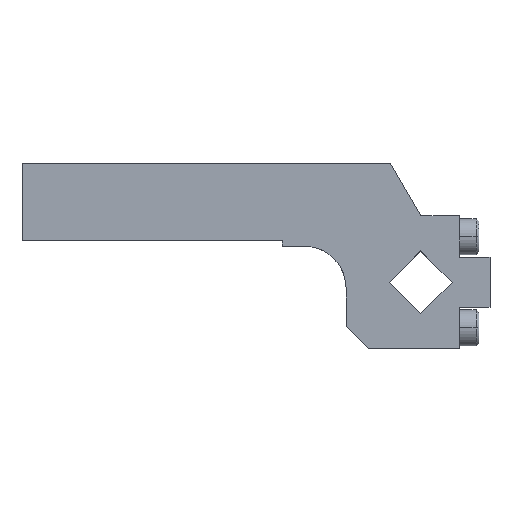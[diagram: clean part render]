
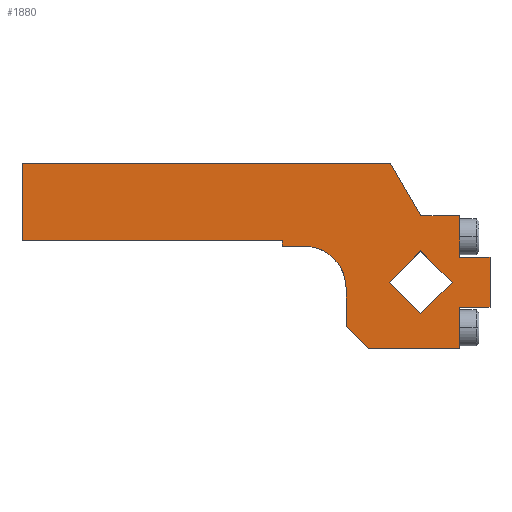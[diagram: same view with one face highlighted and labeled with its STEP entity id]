
A CAD part, top view. The second image highlights one B-rep face of the part: STEP entity #1880.
In plain terms, the highlighted planar face has unit normal (0, 0, 1).
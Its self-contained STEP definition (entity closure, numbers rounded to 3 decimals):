
#51=CARTESIAN_POINT('',(-31.393,8.607,20.0));
#52=VERTEX_POINT('',#51);
#68=CARTESIAN_POINT('',(-27.0,-2.,20.0));
#69=VERTEX_POINT('',#68);
#76=CARTESIAN_POINT('',(-42.0,-2.,20.0));
#77=DIRECTION('',(0.,0.,1.0));
#78=DIRECTION('',(0.707,0.707,0.));
#79=AXIS2_PLACEMENT_3D('',#76,#77,#78);
#80=CIRCLE('',#79,15.0);
#81=EDGE_CURVE('',#69,#52,#80,.T.);
#1155=CARTESIAN_POINT('',(-11.314,0.,20.0));
#1156=VERTEX_POINT('',#1155);
#1157=CARTESIAN_POINT('',(0.0,11.314,20.0));
#1158=VERTEX_POINT('',#1157);
#1159=CARTESIAN_POINT('',(-11.314,0.,20.0));
#1160=DIRECTION('',(0.707,0.707,0.0));
#1161=VECTOR('',#1160,16.);
#1162=LINE('',#1159,#1161);
#1163=EDGE_CURVE('',#1156,#1158,#1162,.T.);
#1195=CARTESIAN_POINT('',(11.314,0.,20.0));
#1196=VERTEX_POINT('',#1195);
#1197=CARTESIAN_POINT('',(0.0,11.314,20.0));
#1198=DIRECTION('',(0.707,-0.707,0.0));
#1199=VECTOR('',#1198,16.);
#1200=LINE('',#1197,#1199);
#1201=EDGE_CURVE('',#1158,#1196,#1200,.T.);
#1226=CARTESIAN_POINT('',(0.0,-11.314,20.0));
#1227=VERTEX_POINT('',#1226);
#1228=CARTESIAN_POINT('',(11.314,0.,20.0));
#1229=DIRECTION('',(-0.707,-0.707,0.0));
#1230=VECTOR('',#1229,16.);
#1231=LINE('',#1228,#1230);
#1232=EDGE_CURVE('',#1196,#1227,#1231,.T.);
#1257=CARTESIAN_POINT('',(0.0,-11.314,20.0));
#1258=DIRECTION('',(-0.707,0.707,0.0));
#1259=VECTOR('',#1258,16.);
#1260=LINE('',#1257,#1259);
#1261=EDGE_CURVE('',#1227,#1156,#1260,.T.);
#1280=CARTESIAN_POINT('',(-42.,13.,20.0));
#1281=VERTEX_POINT('',#1280);
#1282=CARTESIAN_POINT('',(-42.0,-2.,20.0));
#1283=DIRECTION('',(0.,0.,1.0));
#1284=DIRECTION('',(0.707,0.707,0.));
#1285=AXIS2_PLACEMENT_3D('',#1282,#1283,#1284);
#1286=CIRCLE('',#1285,15.0);
#1287=EDGE_CURVE('',#52,#1281,#1286,.T.);
#1312=CARTESIAN_POINT('',(-50.0,13.,20.0));
#1313=VERTEX_POINT('',#1312);
#1314=CARTESIAN_POINT('',(-42.,13.,20.0));
#1315=DIRECTION('',(-1.0,0.0,0.0));
#1316=VECTOR('',#1315,8.);
#1317=LINE('',#1314,#1316);
#1318=EDGE_CURVE('',#1281,#1313,#1317,.T.);
#1343=CARTESIAN_POINT('',(-50.0,15.,20.0));
#1344=VERTEX_POINT('',#1343);
#1345=CARTESIAN_POINT('',(-50.0,13.,20.0));
#1346=DIRECTION('',(0.0,1.0,0.0));
#1347=VECTOR('',#1346,2.);
#1348=LINE('',#1345,#1347);
#1349=EDGE_CURVE('',#1313,#1344,#1348,.T.);
#1374=CARTESIAN_POINT('',(-144.,15.,20.0));
#1375=VERTEX_POINT('',#1374);
#1376=CARTESIAN_POINT('',(-50.0,15.,20.0));
#1377=DIRECTION('',(-1.0,0.0,0.0));
#1378=VECTOR('',#1377,94.);
#1379=LINE('',#1376,#1378);
#1380=EDGE_CURVE('',#1344,#1375,#1379,.T.);
#1429=CARTESIAN_POINT('',(-144.,43.,20.0));
#1430=VERTEX_POINT('',#1429);
#1431=CARTESIAN_POINT('',(-144.,15.,20.0));
#1432=DIRECTION('',(0.0,1.0,0.0));
#1433=VECTOR('',#1432,28.);
#1434=LINE('',#1431,#1433);
#1435=EDGE_CURVE('',#1375,#1430,#1434,.T.);
#1460=CARTESIAN_POINT('',(-10.97,43.,20.0));
#1461=VERTEX_POINT('',#1460);
#1462=CARTESIAN_POINT('',(-144.,43.,20.0));
#1463=DIRECTION('',(1.0,0.0,0.0));
#1464=VECTOR('',#1463,133.03);
#1465=LINE('',#1462,#1464);
#1466=EDGE_CURVE('',#1430,#1461,#1465,.T.);
#1515=CARTESIAN_POINT('',(0.0,24.,20.0));
#1516=VERTEX_POINT('',#1515);
#1517=CARTESIAN_POINT('',(-10.97,43.,20.0));
#1518=DIRECTION('',(0.5,-0.866,0.0));
#1519=VECTOR('',#1518,21.939);
#1520=LINE('',#1517,#1519);
#1521=EDGE_CURVE('',#1461,#1516,#1520,.T.);
#1546=CARTESIAN_POINT('',(14.,24.,20.0));
#1547=VERTEX_POINT('',#1546);
#1548=CARTESIAN_POINT('',(0.0,24.,20.0));
#1549=DIRECTION('',(1.0,0.0,0.0));
#1550=VECTOR('',#1549,14.);
#1551=LINE('',#1548,#1550);
#1552=EDGE_CURVE('',#1516,#1547,#1551,.T.);
#1577=CARTESIAN_POINT('',(14.,9.074,20.0));
#1578=VERTEX_POINT('',#1577);
#1579=CARTESIAN_POINT('',(14.,24.,20.0));
#1580=DIRECTION('',(0.0,-1.0,0.0));
#1581=VECTOR('',#1580,14.926);
#1582=LINE('',#1579,#1581);
#1583=EDGE_CURVE('',#1547,#1578,#1582,.T.);
#1612=CARTESIAN_POINT('',(25.0,9.,20.0));
#1613=VERTEX_POINT('',#1612);
#1614=CARTESIAN_POINT('',(14.,9.074,20.0));
#1615=DIRECTION('',(1.,-0.007,0.0));
#1616=VECTOR('',#1615,11.);
#1617=LINE('',#1614,#1616);
#1618=EDGE_CURVE('',#1578,#1613,#1617,.T.);
#1643=CARTESIAN_POINT('',(25.0,-9.,20.0));
#1644=VERTEX_POINT('',#1643);
#1645=CARTESIAN_POINT('',(25.0,9.,20.0));
#1646=DIRECTION('',(0.0,-1.0,0.0));
#1647=VECTOR('',#1646,18.);
#1648=LINE('',#1645,#1647);
#1649=EDGE_CURVE('',#1613,#1644,#1648,.T.);
#1674=CARTESIAN_POINT('',(14.,-9.,20.0));
#1675=VERTEX_POINT('',#1674);
#1676=CARTESIAN_POINT('',(25.0,-9.,20.0));
#1677=DIRECTION('',(-1.0,0.0,0.0));
#1678=VECTOR('',#1677,11.);
#1679=LINE('',#1676,#1678);
#1680=EDGE_CURVE('',#1644,#1675,#1679,.T.);
#1705=CARTESIAN_POINT('',(14.,-24.,20.0));
#1706=VERTEX_POINT('',#1705);
#1707=CARTESIAN_POINT('',(14.,-9.,20.0));
#1708=DIRECTION('',(0.0,-1.0,0.0));
#1709=VECTOR('',#1708,15.);
#1710=LINE('',#1707,#1709);
#1711=EDGE_CURVE('',#1675,#1706,#1710,.T.);
#1740=CARTESIAN_POINT('',(-19.0,-24.,20.0));
#1741=VERTEX_POINT('',#1740);
#1742=CARTESIAN_POINT('',(14.,-24.,20.0));
#1743=DIRECTION('',(-1.0,0.0,0.0));
#1744=VECTOR('',#1743,33.0);
#1745=LINE('',#1742,#1744);
#1746=EDGE_CURVE('',#1706,#1741,#1745,.T.);
#1771=CARTESIAN_POINT('',(-27.0,-16.,20.0));
#1772=VERTEX_POINT('',#1771);
#1773=CARTESIAN_POINT('',(-19.0,-24.,20.0));
#1774=DIRECTION('',(-0.707,0.707,0.0));
#1775=VECTOR('',#1774,11.314);
#1776=LINE('',#1773,#1775);
#1777=EDGE_CURVE('',#1741,#1772,#1776,.T.);
#1802=CARTESIAN_POINT('',(-27.0,-16.,20.0));
#1803=DIRECTION('',(0.0,1.0,0.0));
#1804=VECTOR('',#1803,14.);
#1805=LINE('',#1802,#1804);
#1806=EDGE_CURVE('',#1772,#69,#1805,.T.);
#1850=CARTESIAN_POINT('',(-27.0,-2.,20.0));
#1851=DIRECTION('',(0.0,0.0,-1.0));
#1852=DIRECTION('',(-1.0,0.0,0.0));
#1853=AXIS2_PLACEMENT_3D('',#1850,#1851,#1852);
#1854=PLANE('',#1853);
#1855=ORIENTED_EDGE('',*,*,#81,.F.);
#1856=ORIENTED_EDGE('',*,*,#1806,.F.);
#1857=ORIENTED_EDGE('',*,*,#1777,.F.);
#1858=ORIENTED_EDGE('',*,*,#1746,.F.);
#1859=ORIENTED_EDGE('',*,*,#1711,.F.);
#1860=ORIENTED_EDGE('',*,*,#1680,.F.);
#1861=ORIENTED_EDGE('',*,*,#1649,.F.);
#1862=ORIENTED_EDGE('',*,*,#1618,.F.);
#1863=ORIENTED_EDGE('',*,*,#1583,.F.);
#1864=ORIENTED_EDGE('',*,*,#1552,.F.);
#1865=ORIENTED_EDGE('',*,*,#1521,.F.);
#1866=ORIENTED_EDGE('',*,*,#1466,.F.);
#1867=ORIENTED_EDGE('',*,*,#1435,.F.);
#1868=ORIENTED_EDGE('',*,*,#1380,.F.);
#1869=ORIENTED_EDGE('',*,*,#1349,.F.);
#1870=ORIENTED_EDGE('',*,*,#1318,.F.);
#1871=ORIENTED_EDGE('',*,*,#1287,.F.);
#1872=EDGE_LOOP('',(#1855,#1856,#1857,#1858,#1859,#1860,#1861,#1862,#1863,#1864,#1865,#1866,#1867,#1868,#1869,#1870,#1871));
#1873=FACE_OUTER_BOUND('',#1872,.T.);
#1874=ORIENTED_EDGE('',*,*,#1163,.T.);
#1875=ORIENTED_EDGE('',*,*,#1201,.T.);
#1876=ORIENTED_EDGE('',*,*,#1232,.T.);
#1877=ORIENTED_EDGE('',*,*,#1261,.T.);
#1878=EDGE_LOOP('',(#1874,#1875,#1876,#1877));
#1879=FACE_BOUND('',#1878,.T.);
#1880=ADVANCED_FACE('',(#1873,#1879),#1854,.F.);
